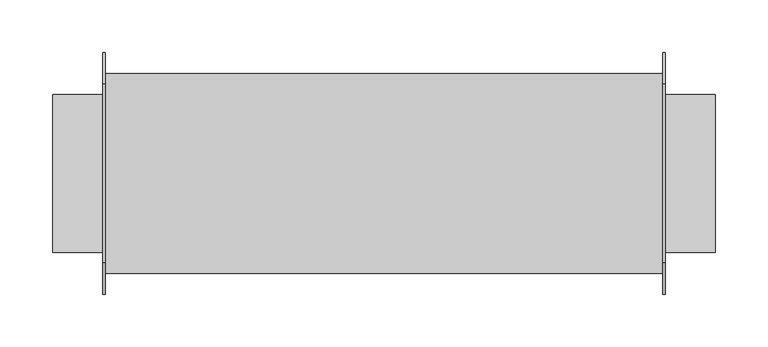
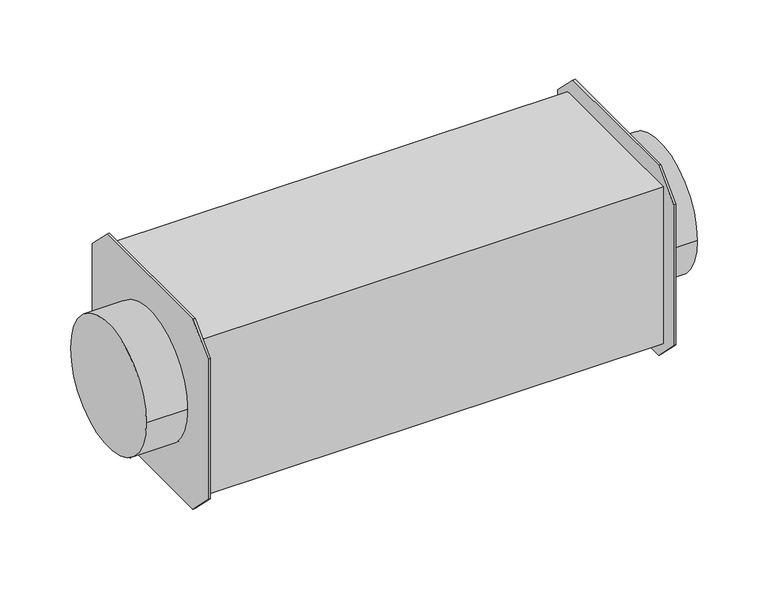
"""IFC4 building model written with IfcOpenShell, lengths in millimetres: unitary equipment geometry, 140_VAV_変風量ユニット_丸ダクト用 : 変風量ユニット_丸ダクト用."""

from ifc_helpers import new_model, si_unit, point, frame, origin, origin_2d, place, context, project, spatial, polyline, circle_curve, trimmed, segment, composite_curve, outline, extrude, source, transform, mapped, element, save


def unitary_equipment_5167a605(model_context):
    return source(origin(), model_context, "Body", "SweptSolid", [
        extrude(outline(polyline([(85.0, -115.0), (-85.0, -115.0), (-115.0, -85.0), (-115.0, 85.0), (-85.0, 115.0), (85.0, 115.0), (115.0, 85.0), (115.0, -85.0), (85.0, -115.0)])), frame((265.0, 0.0, 0.0), z_axis=(1.0, 0.0, 0.0), x_axis=(0.0, 1.0, 0.0)), (0.0, 0.0, 1.0), 2.5),
        extrude(outline(polyline([(85.0, -115.0), (-85.0, -115.0), (-115.0, -85.0), (-115.0, 85.0), (-85.0, 115.0), (85.0, 115.0), (115.0, 85.0), (115.0, -85.0), (85.0, -115.0)])), frame((-267.5, 0.0, 0.0), z_axis=(1.0, 0.0, 0.0), x_axis=(0.0, 1.0, 0.0)), (0.0, 0.0, 1.0), 2.5),
        extrude(outline(composite_curve([segment(trimmed(circle_curve(origin_2d(), 75.0), [point((75.0, 0.0))], [point((-75.0, 0.0))], False, "CARTESIAN"), True, "CONTINUOUS"), segment(trimmed(circle_curve(origin_2d(), 75.0), [point((-75.0, 0.0))], [point((75.0, 0.0))], False, "CARTESIAN"), True, "CONTINUOUS")], self_intersect=False)), frame((265.0, 0.0, 0.0), z_axis=(1.0, 0.0, 0.0), x_axis=(0.0, 1.0, 0.0)), (0.0, 0.0, 1.0), 50.0),
        extrude(outline(composite_curve([segment(trimmed(circle_curve(origin_2d(), 75.0), [point((75.0, 0.0))], [point((-75.0, 0.0))], False, "CARTESIAN"), True, "CONTINUOUS"), segment(trimmed(circle_curve(origin_2d(), 75.0), [point((-75.0, 0.0))], [point((75.0, 0.0))], False, "CARTESIAN"), True, "CONTINUOUS")], self_intersect=False)), frame((-315.0, 0.0, 0.0), z_axis=(1.0, 0.0, 0.0), x_axis=(0.0, 1.0, 0.0)), (0.0, 0.0, 1.0), 50.0),
        extrude(outline(polyline([(265.0, -95.0), (-265.0, -95.0), (-265.0, 95.0), (265.0, 95.0), (265.0, -95.0)])), frame((0.0, 0.0, -95.0), z_axis=(0.0, 0.0, 1.0), x_axis=(1.0, 0.0, 0.0)), (0.0, 0.0, 1.0), 190.0),
    ])


if __name__ == "__main__":
    model = new_model("IFC4")
    model_context = context("Model", 3, world=origin())
    ifc_project = project(units=[si_unit("LENGTHUNIT", "METRE", prefix="MILLI")], contexts=[model_context])
    site = spatial("IfcSite", under=ifc_project)
    building = spatial("IfcBuilding", under=site)
    placement = place(None, origin())
    unitary_equipment_shape = unitary_equipment_5167a605(model_context)
    element("IfcUnitaryEquipment", 1, ObjectType="140_VAV_変風量ユニット_丸ダクト用 : 変風量ユニット_丸ダクト用", at=placement, inside=building, context=model_context, shape_type="MappedRepresentation", body=[
        mapped(unitary_equipment_shape, transform((0.0, 0.0, 0.0), x_axis=(1.0, 0.0, 0.0), y_axis=(0.0, 1.0, 0.0), z_axis=(0.0, 0.0, 1.0))),
    ])
    save(model, "model.ifc")
